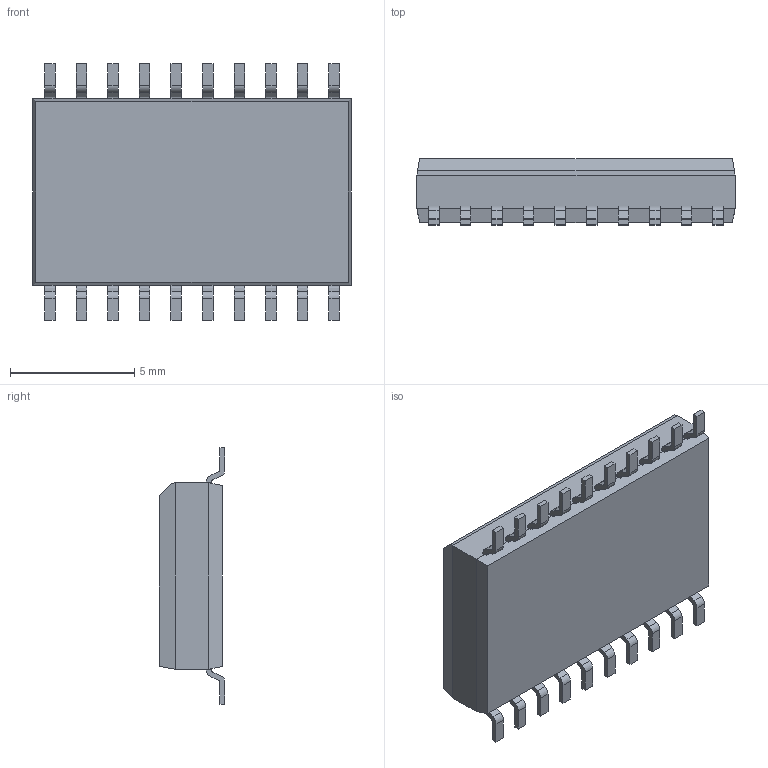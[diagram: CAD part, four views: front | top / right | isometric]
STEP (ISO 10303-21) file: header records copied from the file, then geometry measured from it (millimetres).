
FILE_DESCRIPTION (( 'STEP AP214' ), '1' );
FILE_NAME ( 'SOIC127P1032X265-20L87.STEP', '2014-04-11T12:31:21', ( '' ), ( '' ), 'FPX Expert 2013', 'PCB Libraries', '' );
FILE_SCHEMA (( 'AUTOMOTIVE_DESIGN' ));
Length unit declared in the file: millimetre
Products named in the file (1): SOIC127P1032X265-20L87
Bounding box: 12.8 x 2.65 x 10.32 mm (x, y, z)
Volume: 243.9 mm3; surface area: 329.8 mm2
Topology: 21 solids, 21 shells, 295 faces, 751 edges, 498 vertices
Faces by surface type: plane 215, cylinder 80
Entity records: 9945 total; most frequent: CARTESIAN_POINT 1545, DIRECTION 1503, ORIENTED_EDGE 1502, EDGE_CURVE 751, VECTOR 591, LINE 591, VERTEX_POINT 498, AXIS2_PLACEMENT_3D 456
